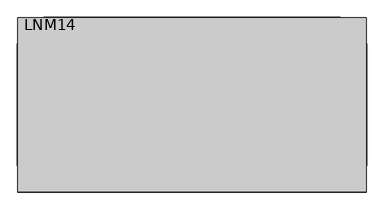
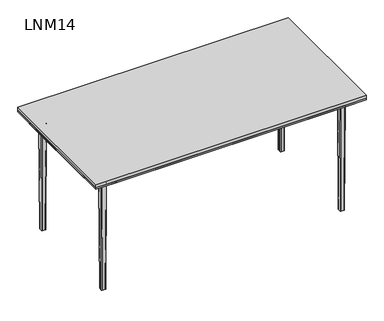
"""IFC4 building model written with IfcOpenShell, lengths in millimetres: furniture geometry, Contact Desks and Operative Twin Desks : LNM14."""

from ifc_helpers import new_model, si_unit, point, frame, origin, place, context, project, spatial, polyline, circle_curve, ellipse_curve, trimmed, outline, extrude, faceted_brep, source, transform, mapped, element, save
from ifc_brep_helpers import plane_surface, cylinder_surface, revolved_surface, extruded_surface, advanced_brep


def lnm14_2fae6fb0(model_context):
    return source(origin(), model_context, "Body", "SolidModel", [
        extrude(outline(polyline([(800.0, -280.0), (800.0, -400.0), (680.0, -400.0), (680.0, -280.0), (800.0, -280.0)])), frame((0.0, 0.0, 710.0), z_axis=(0.0, 0.0, 1.0), x_axis=(1.0, 0.0, 0.0)), (0.0, 0.0, 1.0), 10.0),
        extrude(outline(polyline([(800.0, 400.0), (800.0, 280.0), (680.0, 280.0), (680.0, 400.0), (800.0, 400.0)])), frame((0.0, 0.0, 710.0), z_axis=(0.0, 0.0, 1.0), x_axis=(1.0, 0.0, 0.0)), (0.0, 0.0, 1.0), 10.0),
        extrude(outline(polyline([(-680.0, 400.0), (-680.0, 280.0), (-800.0, 280.0), (-800.0, 400.0), (-680.0, 400.0)])), frame((0.0, 0.0, 710.0), z_axis=(0.0, 0.0, 1.0), x_axis=(1.0, 0.0, 0.0)), (0.0, 0.0, 1.0), 10.0),
        extrude(outline(polyline([(-800.0, 280.0), (-680.0, 280.0), (-680.0, -280.0), (-800.0, -280.0), (-800.0, 280.0)])), frame((0.0, 0.0, 710.0), z_axis=(0.0, 0.0, 1.0), x_axis=(1.0, 0.0, 0.0)), (0.0, 0.0, 1.0), 10.0),
        extrude(outline(polyline([(680.0, 280.0), (800.0, 280.0), (800.0, -280.0), (680.0, -280.0), (680.0, 280.0)])), frame((0.0, 0.0, 710.0), z_axis=(0.0, 0.0, 1.0), x_axis=(1.0, 0.0, 0.0)), (0.0, 0.0, 1.0), 10.0),
        extrude(outline(polyline([(680.0, -280.0), (680.0, -400.0), (-680.0, -400.0), (-680.0, -280.0), (680.0, -280.0)])), frame((0.0, 0.0, 710.0), z_axis=(0.0, 0.0, 1.0), x_axis=(1.0, 0.0, 0.0)), (0.0, 0.0, 1.0), 10.0),
        extrude(outline(polyline([(680.0, 400.0), (680.0, 280.0), (-680.0, 280.0), (-680.0, 400.0), (680.0, 400.0)])), frame((0.0, 0.0, 710.0), z_axis=(0.0, 0.0, 1.0), x_axis=(1.0, 0.0, 0.0)), (0.0, 0.0, 1.0), 10.0),
        extrude(outline(polyline([(710.0, 680.0), (675.0, 680.0), (675.0, 728.7129935), (710.0, 801.7129935), (710.0, 680.0)])), frame((0.0, -280.0, 0.0), z_axis=(0.0, 1.0, 0.0), x_axis=(0.0, 0.0, 1.0)), (0.0, 0.0, 1.0), 560.0),
        extrude(outline(polyline([(710.0, -680.0), (710.0, -801.7129935), (675.0, -728.7129935), (675.0, -680.0), (710.0, -680.0)])), frame((0.0, -280.0, 0.0), z_axis=(0.0, 1.0, 0.0), x_axis=(0.0, 0.0, 1.0)), (0.0, 0.0, 1.0), 560.0),
        extrude(outline(polyline([(280.0, 710.0), (401.7129935, 710.0), (328.7129935, 675.0), (280.0, 675.0), (280.0, 710.0)])), frame((-680.0, 0.0, 0.0), z_axis=(1.0, 0.0, 0.0), x_axis=(0.0, 1.0, 0.0)), (0.0, 0.0, 1.0), 1360.0),
        extrude(outline(polyline([(-280.0, 710.0), (-280.0, 675.0), (-328.7129935, 675.0), (-401.7129935, 710.0), (-280.0, 710.0)])), frame((-680.0, 0.0, 0.0), z_axis=(1.0, 0.0, 0.0), x_axis=(0.0, 1.0, 0.0)), (0.0, 0.0, 1.0), 1360.0),
        faceted_brep([(-680.0, 280.0, 710.0), (-680.0, 400.0, 710.0), (-800.0, 400.0, 710.0), (-800.0, 280.0, 710.0), (-680.0, 280.0, 675.0), (-727.0, 280.0, 675.0), (-727.0, 327.0, 675.0), (-680.0, 327.0, 675.0)], [[[0, 1, 2, 3]], [[4, 5, 6, 7]], [[1, 0, 4, 7]], [[0, 3, 5, 4]], [[6, 2, 1, 7]], [[2, 6, 5, 3]]]),
        advanced_brep(
        [(-687.0, 295.0, 675.0), (-687.0, 319.0, 675.0), (-695.0, 327.0, 675.0), (-719.0, 327.0, 675.0), (-727.0, 319.0, 675.0), (-727.0, 295.0, 675.0), (-719.0, 287.0, 675.0), (-695.0, 287.0, 675.0), (-719.0, 292.0, 665.0), (-722.0, 295.0, 665.0), (-722.0, 319.0, 665.0), (-719.0, 322.0, 665.0), (-695.0, 322.0, 665.0), (-692.0, 319.0, 665.0), (-692.0, 295.0, 665.0), (-695.0, 292.0, 665.0), (-687.0, 295.0, 672.0), (-687.0, 319.0, 672.0), (-695.0, 327.0, 672.0), (-719.0, 327.0, 672.0), (-727.0, 319.0, 672.0), (-727.0, 295.0, 672.0), (-719.0, 287.0, 672.0), (-695.0, 287.0, 672.0)],
        [
            (0, 1),
            (1, 2, circle_curve(frame((-695.0, 319.0, 675.0), z_axis=(0.0, 0.0, 1.0), x_axis=(0.0, -1.0000000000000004, 0.0)), 8.0)),
            (2, 3),
            (3, 4, circle_curve(frame((-719.0, 319.0, 675.0), z_axis=(0.0, 0.0, 1.0), x_axis=(0.0, -1.0000000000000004, 0.0)), 8.0)),
            (4, 5),
            (5, 6, circle_curve(frame((-719.0, 295.0, 675.0), z_axis=(0.0, 0.0, 1.0), x_axis=(0.0, -1.0000000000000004, 0.0)), 8.0)),
            (6, 7),
            (7, 0, circle_curve(frame((-695.0, 295.0, 675.0), z_axis=(0.0, 0.0, 1.0), x_axis=(0.0, -1.0000000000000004, 0.0)), 8.0)),
            (8, 9, circle_curve(frame((-719.0, 295.0, 665.0), z_axis=(0.0, 0.0, -1.0), x_axis=(0.0, -1.0000000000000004, 0.0)), 3.0)),
            (9, 10),
            (10, 11, circle_curve(frame((-719.0, 319.0, 665.0), z_axis=(0.0, 0.0, -1.0), x_axis=(-1.0000000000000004, 0.0, 0.0)), 3.0)),
            (11, 12),
            (12, 13, circle_curve(frame((-695.0, 319.0, 665.0), z_axis=(0.0, 0.0, -1.0), x_axis=(0.0, 1.0000000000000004, 0.0)), 3.0)),
            (13, 14),
            (14, 15, circle_curve(frame((-695.0, 295.0, 665.0), z_axis=(0.0, 0.0, -1.0), x_axis=(1.0000000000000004, 0.0, 0.0)), 3.0)),
            (15, 8),
            (0, 16),
            (16, 17),
            (17, 1),
            (17, 18, circle_curve(frame((-695.0, 319.0, 672.0), z_axis=(0.0, 0.0, 1.0), x_axis=(0.0, -1.0000000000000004, 0.0)), 8.0)),
            (18, 2),
            (18, 19),
            (19, 3),
            (19, 20, circle_curve(frame((-719.0, 319.0, 672.0), z_axis=(0.0, 0.0, 1.0), x_axis=(0.0, -1.0000000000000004, 0.0)), 8.0)),
            (20, 4),
            (20, 21),
            (21, 5),
            (21, 22, circle_curve(frame((-719.0, 295.0, 672.0), z_axis=(0.0, 0.0, 1.0), x_axis=(0.0, -1.0000000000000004, 0.0)), 8.0)),
            (22, 6),
            (22, 23),
            (23, 7),
            (23, 16, circle_curve(frame((-695.0, 295.0, 672.0), z_axis=(0.0, 0.0, 1.0), x_axis=(0.0, -1.0000000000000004, 0.0)), 8.0)),
            (21, 9, circle_curve(frame((-730.9600528, 295.0, 663.8856766), z_axis=(0.0, 1.0000000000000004, 0.0), x_axis=(-1.0000000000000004, 0.0, 0.0)), 9.0290787)),
            (8, 22, circle_curve(frame((-719.0, 283.0399472, 663.8856766), z_axis=(1.0000000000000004, 0.0, 0.0), x_axis=(0.0, -1.0000000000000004, 0.0)), 9.0290787)),
            (20, 10, circle_curve(frame((-730.9600528, 319.0, 663.8856766), z_axis=(0.0, 1.0, 0.0), x_axis=(-1.0000000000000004, 0.0, 0.0)), 9.0290787)),
            (19, 11, circle_curve(frame((-719.0, 330.9600528, 663.8856766), z_axis=(1.0000000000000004, 0.0, 0.0), x_axis=(0.0, 1.0000000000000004, 0.0)), 9.0290787)),
            (18, 12, circle_curve(frame((-695.0, 330.9600528, 663.8856766), z_axis=(1.0, 0.0, 0.0), x_axis=(0.0, 1.0000000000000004, 0.0)), 9.0290787)),
            (17, 13, circle_curve(frame((-683.0399472, 319.0, 663.8856766), z_axis=(0.0, -1.0000000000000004, 0.0), x_axis=(1.0000000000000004, 0.0, 0.0)), 9.0290787)),
            (16, 14, circle_curve(frame((-683.0399472, 295.0, 663.8856766), z_axis=(0.0, -1.0, 0.0), x_axis=(1.0000000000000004, 0.0, 0.0)), 9.0290787)),
            (23, 15, circle_curve(frame((-695.0, 283.0399472, 663.8856766), z_axis=(-1.0000000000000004, 0.0, 0.0), x_axis=(0.0, -1.0000000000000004, 0.0)), 9.0290787)),
        ],
        [
            plane_surface(frame((-687.0, 980.663284, 675.0), z_axis=(0.0, 0.0, 1.0), x_axis=(0.0, 1.0, 0.0))),
            plane_surface(frame((-687.0, 980.663284, 665.0), z_axis=(0.0, 0.0, -1.0), x_axis=(0.0, -1.0, 0.0))),
            plane_surface(frame((-687.0, 295.0, 675.0), z_axis=(1.0, 0.0, 0.0), x_axis=(0.0, 0.0, -1.0))),
            cylinder_surface(frame((-695.0, 319.0, 665.0), z_axis=(0.0, 0.0, 1.0), x_axis=(0.0, -1.0000000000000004, 0.0)), 8.0),
            plane_surface(frame((-695.0, 327.0, 675.0), z_axis=(0.0, 1.0, 0.0), x_axis=(0.0, 0.0, -1.0))),
            cylinder_surface(frame((-719.0, 319.0, 665.0), z_axis=(0.0, 0.0, 1.0), x_axis=(0.0, -1.0000000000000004, 0.0)), 8.0),
            plane_surface(frame((-727.0, 319.0, 675.0), z_axis=(-1.0, 0.0, 0.0), x_axis=(0.0, 0.0, -1.0))),
            cylinder_surface(frame((-719.0, 295.0, 665.0), z_axis=(0.0, 0.0, 1.0), x_axis=(0.0, -1.0000000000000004, 0.0)), 8.0),
            plane_surface(frame((-719.0, 287.0, 675.0), z_axis=(0.0, -1.0, 0.0), x_axis=(0.0, 0.0, -1.0))),
            cylinder_surface(frame((-695.0, 295.0, 665.0), z_axis=(0.0, 0.0, 1.0), x_axis=(0.0, -1.0000000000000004, 0.0)), 8.0),
            revolved_surface(trimmed(ellipse_curve(frame((-719.0, 283.0399472, 663.8856766), z_axis=(-1.0000000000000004, 0.0, 0.0), x_axis=(0.0, -1.0000000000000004, 0.0)), 9.0290787, 9.0290787), [point((-719.0, 287.0, 672.0))], [point((-719.0, 292.0, 665.0))], True, "CARTESIAN"), (-719.0, 295.0, 0.0), (0.0, 0.0, -1.0)),
            revolved_surface(polyline([(-739.9891315, 295.0, 663.8856766), (-739.9891315, 319.0, 663.8856766)]), (-730.9600528, 295.0, 663.8856766), (0.0, -1.0000000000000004, 0.0)),
            revolved_surface(trimmed(ellipse_curve(frame((-730.9600528, 319.0, 663.8856766), z_axis=(0.0, 1.0000000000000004, 0.0), x_axis=(-1.0000000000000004, 0.0, 0.0)), 9.0290787, 9.0290787), [point((-727.0, 319.0, 672.0))], [point((-722.0, 319.0, 665.0))], True, "CARTESIAN"), (-719.0, 319.0, 0.0), (0.0, 0.0, -1.0)),
            revolved_surface(polyline([(-719.0, 339.98913150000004, 663.8856766), (-695.0, 339.98913150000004, 663.8856766)]), (-719.0, 330.9600528, 663.8856766), (-1.0000000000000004, 0.0, 0.0)),
            revolved_surface(trimmed(ellipse_curve(frame((-695.0, 330.9600528, 663.8856766), z_axis=(1.0000000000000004, 0.0, 0.0), x_axis=(0.0, 1.0000000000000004, 0.0)), 9.0290787, 9.0290787), [point((-695.0, 327.0, 672.0))], [point((-695.0, 322.0, 665.0))], True, "CARTESIAN"), (-695.0, 319.0, 0.0), (0.0, 0.0, -1.0)),
            revolved_surface(polyline([(-674.0108685, 319.0, 663.8856766), (-674.0108685, 295.0, 663.8856766)]), (-683.0399472, 319.0, 663.8856766), (0.0, 1.0000000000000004, 0.0)),
            revolved_surface(trimmed(ellipse_curve(frame((-683.0399472, 295.0, 663.8856766), z_axis=(0.0, -1.0000000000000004, 0.0), x_axis=(1.0000000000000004, 0.0, 0.0)), 9.0290787, 9.0290787), [point((-687.0, 295.0, 672.0))], [point((-692.0, 295.0, 665.0))], True, "CARTESIAN"), (-695.0, 295.0, 0.0), (0.0, 0.0, -1.0)),
            revolved_surface(polyline([(-695.0, 274.01086849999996, 663.8856766), (-719.0, 274.01086849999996, 663.8856766)]), (-695.0, 283.0399472, 663.8856766), (1.0000000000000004, 0.0, 0.0)),
        ],
        [
            (0, [[1, 2, 3, 4, 5, 6, 7, 8]]),
            (1, [[9, 10, 11, 12, 13, 14, 15, 16]]),
            (2, [[-1, 17, 18, 19]]),
            (3, [[-2, -19, 20, 21]]),
            (4, [[-3, -21, 22, 23]]),
            (5, [[-4, -23, 24, 25]]),
            (6, [[-5, -25, 26, 27]]),
            (7, [[-6, -27, 28, 29]]),
            (8, [[-7, -29, 30, 31]]),
            (9, [[-8, -31, 32, -17]]),
            (10, [[33, -9, 34, -28]]),
            (11, [[-33, -26, 35, -10]]),
            (12, [[-35, -24, 36, -11]]),
            (13, [[-36, -22, 37, -12]]),
            (14, [[-37, -20, 38, -13]]),
            (15, [[-38, -18, 39, -14]]),
            (16, [[-39, -32, 40, -15]]),
            (17, [[-34, -16, -40, -30]]),
        ],
    ),
        advanced_brep(
        [(-719.0, 322.0, 665.0), (-722.0, 319.0, 665.0), (-722.0, 295.0, 665.0), (-719.0, 292.0, 665.0), (-695.0, 292.0, 665.0), (-692.0, 295.0, 665.0), (-692.0, 319.0, 665.0), (-695.0, 322.0, 665.0), (-716.0, 319.0, 0.0), (-698.0, 319.0, 0.0), (-695.0, 316.0, 0.0), (-695.0, 298.0, 0.0), (-698.0, 295.0, 0.0), (-716.0, 295.0, 0.0), (-719.0, 298.0, 0.0), (-719.0, 316.0, 0.0)],
        [
            (0, 1, circle_curve(frame((-719.0, 319.0, 665.0), z_axis=(0.0, 0.0, 1.0), x_axis=(0.0, -1.0, 0.0)), 3.0)),
            (1, 2),
            (2, 3, circle_curve(frame((-719.0, 295.0, 665.0), z_axis=(0.0, 0.0, 1.0), x_axis=(0.0, -1.0, 0.0)), 3.0)),
            (3, 4),
            (4, 5, circle_curve(frame((-695.0, 295.0, 665.0), z_axis=(0.0, 0.0, 1.0), x_axis=(0.0, -1.0, 0.0)), 3.0)),
            (5, 6),
            (6, 7, circle_curve(frame((-695.0, 319.0, 665.0), z_axis=(0.0, 0.0, 1.0), x_axis=(0.0, -1.0, 0.0)), 3.0)),
            (7, 0),
            (8, 9),
            (9, 10, circle_curve(frame((-698.0, 316.0, 0.0), z_axis=(0.0, 0.0, -1.0), x_axis=(0.0, -1.0, 0.0)), 3.0)),
            (10, 11),
            (11, 12, circle_curve(frame((-698.0, 298.0, 0.0), z_axis=(0.0, 0.0, -1.0), x_axis=(0.0, -1.0, 0.0)), 3.0)),
            (12, 13),
            (13, 14, circle_curve(frame((-716.0, 298.0, 0.0), z_axis=(0.0, 0.0, -1.0), x_axis=(0.0, -1.0, 0.0)), 3.0)),
            (14, 15),
            (15, 8, circle_curve(frame((-716.0, 316.0, 0.0), z_axis=(0.0, 0.0, -1.0), x_axis=(0.0, -1.0, 0.0)), 3.0)),
            (15, 1),
            (0, 8),
            (14, 2),
            (13, 3),
            (12, 4),
            (11, 5),
            (10, 6),
            (9, 7),
        ],
        [
            plane_surface(frame((-707.0, 307.0, 665.0), z_axis=(0.0, 0.0, 1.0), x_axis=(0.0, 1.0, 0.0))),
            plane_surface(frame((-707.0, 307.0, 0.0), z_axis=(0.0, 0.0, -1.0), x_axis=(0.0, 1.0, 0.0))),
            extruded_surface(trimmed(circle_curve(frame((-716.0, 316.0, 0.0), z_axis=(0.0, 0.0, 1.0), x_axis=(0.0, -1.0, 0.0)), 3.0), [point((-716.0, 319.0, 0.0))], [point((-719.0, 316.0, 0.0))], True, "CARTESIAN"), (-3.0, 3.0, 665.0), 665.0135336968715),
            plane_surface(frame((-719.0, 307.0, 0.0), z_axis=(-0.9999898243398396, 0.0, -0.004511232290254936), x_axis=(0.0, -1.0, 0.0))),
            extruded_surface(trimmed(circle_curve(frame((-716.0, 298.0, 0.0), z_axis=(0.0, 0.0, 1.0), x_axis=(0.0, -1.0, 0.0)), 3.0), [point((-719.0, 298.0, 0.0))], [point((-716.0, 295.0, 0.0))], True, "CARTESIAN"), (-3.0, -3.0, 665.0), 665.0135336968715),
            plane_surface(frame((-707.0, 295.0, 0.0), z_axis=(0.0, -0.9999898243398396, -0.004511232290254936), x_axis=(1.0, 0.0, 0.0))),
            extruded_surface(trimmed(circle_curve(frame((-698.0, 298.0, 0.0), z_axis=(0.0, 0.0, 1.0), x_axis=(0.0, -1.0, 0.0)), 3.0), [point((-698.0, 295.0, 0.0))], [point((-695.0, 298.0, 0.0))], True, "CARTESIAN"), (3.0, -3.0, 665.0), 665.0135336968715),
            plane_surface(frame((-695.0, 307.0, 0.0), z_axis=(0.9999898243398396, 0.0, -0.004511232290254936), x_axis=(0.0, 1.0, 0.0))),
            extruded_surface(trimmed(circle_curve(frame((-698.0, 316.0, 0.0), z_axis=(0.0, 0.0, 1.0), x_axis=(0.0, -1.0, 0.0)), 3.0), [point((-695.0, 316.0, 0.0))], [point((-698.0, 319.0, 0.0))], True, "CARTESIAN"), (3.0, 3.0, 665.0), 665.0135336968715),
            plane_surface(frame((-707.0, 319.0, 0.0), z_axis=(0.0, 0.9999898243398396, -0.004511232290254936), x_axis=(-1.0, 0.0, 0.0))),
        ],
        [
            (0, [[1, 2, 3, 4, 5, 6, 7, 8]]),
            (1, [[9, 10, 11, 12, 13, 14, 15, 16]]),
            (2, [[-16, 17, -1, 18]]),
            (3, [[-15, 19, -2, -17]]),
            (4, [[-14, 20, -3, -19]]),
            (5, [[-13, 21, -4, -20]]),
            (6, [[-12, 22, -5, -21]]),
            (7, [[-11, 23, -6, -22]]),
            (8, [[-10, 24, -7, -23]]),
            (9, [[-9, -18, -8, -24]]),
        ],
    ),
        faceted_brep([(680.0, -280.0, 710.0), (680.0, -400.0, 710.0), (800.0, -400.0, 710.0), (800.0, -280.0, 710.0), (680.0, -280.0, 675.0), (727.0, -280.0, 675.0), (727.0, -327.0, 675.0), (680.0, -327.0, 675.0)], [[[0, 1, 2, 3]], [[4, 5, 6, 7]], [[1, 0, 4, 7]], [[0, 3, 5, 4]], [[6, 2, 1, 7]], [[2, 6, 5, 3]]]),
        advanced_brep(
        [(687.0, -295.0, 675.0), (687.0, -319.0, 675.0), (695.0, -327.0, 675.0), (719.0, -327.0, 675.0), (727.0, -319.0, 675.0), (727.0, -295.0, 675.0), (719.0, -287.0, 675.0), (695.0, -287.0, 675.0), (719.0, -292.0, 665.0), (722.0, -295.0, 665.0), (722.0, -319.0, 665.0), (719.0, -322.0, 665.0), (695.0, -322.0, 665.0), (692.0, -319.0, 665.0), (692.0, -295.0, 665.0), (695.0, -292.0, 665.0), (687.0, -295.0, 672.0), (687.0, -319.0, 672.0), (695.0, -327.0, 672.0), (719.0, -327.0, 672.0), (727.0, -319.0, 672.0), (727.0, -295.0, 672.0), (719.0, -287.0, 672.0), (695.0, -287.0, 672.0)],
        [
            (0, 1),
            (1, 2, circle_curve(frame((695.0, -319.0, 675.0), z_axis=(0.0, 0.0, 1.0), x_axis=(0.0, 1.0000000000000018, 0.0)), 8.0)),
            (2, 3),
            (3, 4, circle_curve(frame((719.0, -319.0, 675.0), z_axis=(0.0, 0.0, 1.0), x_axis=(0.0, 1.0000000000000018, 0.0)), 8.0)),
            (4, 5),
            (5, 6, circle_curve(frame((719.0, -295.0, 675.0), z_axis=(0.0, 0.0, 1.0), x_axis=(0.0, 1.0000000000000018, 0.0)), 8.0)),
            (6, 7),
            (7, 0, circle_curve(frame((695.0, -295.0, 675.0), z_axis=(0.0, 0.0, 1.0), x_axis=(0.0, 1.0000000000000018, 0.0)), 8.0)),
            (8, 9, circle_curve(frame((719.0, -295.0, 665.0), z_axis=(0.0, 0.0, -1.0), x_axis=(0.0, 1.0000000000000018, 0.0)), 3.0)),
            (9, 10),
            (10, 11, circle_curve(frame((719.0, -319.0, 665.0), z_axis=(0.0, 0.0, -1.0), x_axis=(1.0000000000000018, 0.0, 0.0)), 3.0)),
            (11, 12),
            (12, 13, circle_curve(frame((695.0, -319.0, 665.0), z_axis=(0.0, 0.0, -1.0), x_axis=(0.0, -1.0000000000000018, 0.0)), 3.0)),
            (13, 14),
            (14, 15, circle_curve(frame((695.0, -295.0, 665.0), z_axis=(0.0, 0.0, -1.0), x_axis=(-1.0000000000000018, 0.0, 0.0)), 3.0)),
            (15, 8),
            (0, 16),
            (16, 17),
            (17, 1),
            (17, 18, circle_curve(frame((695.0, -319.0, 672.0), z_axis=(0.0, 0.0, 1.0), x_axis=(0.0, 1.0000000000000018, 0.0)), 8.0)),
            (18, 2),
            (18, 19),
            (19, 3),
            (19, 20, circle_curve(frame((719.0, -319.0, 672.0), z_axis=(0.0, 0.0, 1.0), x_axis=(0.0, 1.0000000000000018, 0.0)), 8.0)),
            (20, 4),
            (20, 21),
            (21, 5),
            (21, 22, circle_curve(frame((719.0, -295.0, 672.0), z_axis=(0.0, 0.0, 1.0), x_axis=(0.0, 1.0000000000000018, 0.0)), 8.0)),
            (22, 6),
            (22, 23),
            (23, 7),
            (23, 16, circle_curve(frame((695.0, -295.0, 672.0), z_axis=(0.0, 0.0, 1.0), x_axis=(0.0, 1.0000000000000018, 0.0)), 8.0)),
            (21, 9, circle_curve(frame((730.9600528, -295.0, 663.8856766), z_axis=(0.0, -1.0000000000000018, 0.0), x_axis=(1.0000000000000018, 0.0, 0.0)), 9.0290787)),
            (8, 22, circle_curve(frame((719.0, -283.0399472, 663.8856766), z_axis=(-1.0000000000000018, 0.0, 0.0), x_axis=(0.0, 1.0000000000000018, 0.0)), 9.0290787)),
            (20, 10, circle_curve(frame((730.9600528, -319.0, 663.8856766), z_axis=(0.0, -1.0, 0.0), x_axis=(1.0000000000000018, 0.0, 0.0)), 9.0290787)),
            (19, 11, circle_curve(frame((719.0, -330.9600528, 663.8856766), z_axis=(-1.0000000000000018, 0.0, 0.0), x_axis=(0.0, -1.0000000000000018, 0.0)), 9.0290787)),
            (18, 12, circle_curve(frame((695.0, -330.9600528, 663.8856766), z_axis=(-1.0, 0.0, 0.0), x_axis=(0.0, -1.0000000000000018, 0.0)), 9.0290787)),
            (17, 13, circle_curve(frame((683.0399472, -319.0, 663.8856766), z_axis=(0.0, 1.0000000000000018, 0.0), x_axis=(-1.0000000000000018, 0.0, 0.0)), 9.0290787)),
            (16, 14, circle_curve(frame((683.0399472, -295.0, 663.8856766), z_axis=(0.0, 1.0, 0.0), x_axis=(-1.0000000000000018, 0.0, 0.0)), 9.0290787)),
            (23, 15, circle_curve(frame((695.0, -283.0399472, 663.8856766), z_axis=(1.0000000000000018, 0.0, 0.0), x_axis=(0.0, 1.0000000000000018, 0.0)), 9.0290787)),
        ],
        [
            plane_surface(frame((687.0, -980.663284, 675.0), z_axis=(0.0, 0.0, 1.0), x_axis=(0.0, -1.0, 0.0))),
            plane_surface(frame((687.0, -980.663284, 665.0), z_axis=(0.0, 0.0, -1.0), x_axis=(0.0, 1.0, 0.0))),
            plane_surface(frame((687.0, -295.0, 675.0), z_axis=(-1.0, 0.0, 0.0), x_axis=(0.0, 0.0, -1.0))),
            cylinder_surface(frame((695.0, -319.0, 665.0), z_axis=(0.0, 0.0, 1.0), x_axis=(0.0, 1.0000000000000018, 0.0)), 8.0),
            plane_surface(frame((695.0, -327.0, 675.0), z_axis=(0.0, -1.0, 0.0), x_axis=(0.0, 0.0, -1.0))),
            cylinder_surface(frame((719.0, -319.0, 665.0), z_axis=(0.0, 0.0, 1.0), x_axis=(0.0, 1.0000000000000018, 0.0)), 8.0),
            plane_surface(frame((727.0, -319.0, 675.0), z_axis=(1.0, 0.0, 0.0), x_axis=(0.0, 0.0, -1.0))),
            cylinder_surface(frame((719.0, -295.0, 665.0), z_axis=(0.0, 0.0, 1.0), x_axis=(0.0, 1.0000000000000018, 0.0)), 8.0),
            plane_surface(frame((719.0, -287.0, 675.0), z_axis=(0.0, 1.0, 0.0), x_axis=(0.0, 0.0, -1.0))),
            cylinder_surface(frame((695.0, -295.0, 665.0), z_axis=(0.0, 0.0, 1.0), x_axis=(0.0, 1.0000000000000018, 0.0)), 8.0),
            revolved_surface(trimmed(ellipse_curve(frame((719.0, -283.0399472, 663.8856766), z_axis=(1.0000000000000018, 0.0, 0.0), x_axis=(0.0, 1.0000000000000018, 0.0)), 9.0290787, 9.0290787), [point((719.0, -287.0, 672.0))], [point((719.0, -292.0, 665.0))], True, "CARTESIAN"), (719.0, -295.0, 0.0), (0.0, 0.0, -1.0)),
            revolved_surface(polyline([(739.9891315, -295.0, 663.8856766), (739.9891315, -319.0000000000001, 663.8856766)]), (730.9600528, -295.0, 663.8856766), (0.0, 1.0000000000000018, 0.0)),
            revolved_surface(trimmed(ellipse_curve(frame((730.9600528, -319.0, 663.8856766), z_axis=(0.0, -1.0000000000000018, 0.0), x_axis=(1.0000000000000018, 0.0, 0.0)), 9.0290787, 9.0290787), [point((727.0, -319.0, 672.0))], [point((722.0, -319.0, 665.0))], True, "CARTESIAN"), (719.0, -319.0, 0.0), (0.0, 0.0, -1.0)),
            revolved_surface(polyline([(719.0, -339.98913150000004, 663.8856766), (694.9999999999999, -339.98913150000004, 663.8856766)]), (719.0, -330.9600528, 663.8856766), (1.0000000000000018, 0.0, 0.0)),
            revolved_surface(trimmed(ellipse_curve(frame((695.0, -330.9600528, 663.8856766), z_axis=(-1.0000000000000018, 0.0, 0.0), x_axis=(0.0, -1.0000000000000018, 0.0)), 9.0290787, 9.0290787), [point((695.0, -327.0, 672.0))], [point((695.0, -322.0, 665.0))], True, "CARTESIAN"), (695.0, -319.0, 0.0), (0.0, 0.0, -1.0)),
            revolved_surface(polyline([(674.0108685, -319.0, 663.8856766), (674.0108685, -294.9999999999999, 663.8856766)]), (683.0399472, -319.0, 663.8856766), (0.0, -1.0000000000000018, 0.0)),
            revolved_surface(trimmed(ellipse_curve(frame((683.0399472, -295.0, 663.8856766), z_axis=(0.0, 1.0000000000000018, 0.0), x_axis=(-1.0000000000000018, 0.0, 0.0)), 9.0290787, 9.0290787), [point((687.0, -295.0, 672.0))], [point((692.0, -295.0, 665.0))], True, "CARTESIAN"), (695.0, -295.0, 0.0), (0.0, 0.0, -1.0)),
            revolved_surface(polyline([(695.0, -274.01086849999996, 663.8856766), (719.0000000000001, -274.01086849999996, 663.8856766)]), (695.0, -283.0399472, 663.8856766), (-1.0000000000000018, 0.0, 0.0)),
        ],
        [
            (0, [[1, 2, 3, 4, 5, 6, 7, 8]]),
            (1, [[9, 10, 11, 12, 13, 14, 15, 16]]),
            (2, [[-1, 17, 18, 19]]),
            (3, [[-2, -19, 20, 21]]),
            (4, [[-3, -21, 22, 23]]),
            (5, [[-4, -23, 24, 25]]),
            (6, [[-5, -25, 26, 27]]),
            (7, [[-6, -27, 28, 29]]),
            (8, [[-7, -29, 30, 31]]),
            (9, [[-8, -31, 32, -17]]),
            (10, [[33, -9, 34, -28]]),
            (11, [[-33, -26, 35, -10]]),
            (12, [[-35, -24, 36, -11]]),
            (13, [[-36, -22, 37, -12]]),
            (14, [[-37, -20, 38, -13]]),
            (15, [[-38, -18, 39, -14]]),
            (16, [[-39, -32, 40, -15]]),
            (17, [[-34, -16, -40, -30]]),
        ],
    ),
        advanced_brep(
        [(719.0, -322.0, 665.0), (722.0, -319.0, 665.0), (722.0, -295.0, 665.0), (719.0, -292.0, 665.0), (695.0, -292.0, 665.0), (692.0, -295.0, 665.0), (692.0, -319.0, 665.0), (695.0, -322.0, 665.0), (716.0, -319.0, 0.0), (698.0, -319.0, 0.0), (695.0, -316.0, 0.0), (695.0, -298.0, 0.0), (698.0, -295.0, 0.0), (716.0, -295.0, 0.0), (719.0, -298.0, 0.0), (719.0, -316.0, 0.0)],
        [
            (0, 1, circle_curve(frame((719.0, -319.0, 665.0), z_axis=(0.0, 0.0, 1.0), x_axis=(0.0, 1.0, 0.0)), 3.0)),
            (1, 2),
            (2, 3, circle_curve(frame((719.0, -295.0, 665.0), z_axis=(0.0, 0.0, 1.0), x_axis=(0.0, 1.0, 0.0)), 3.0)),
            (3, 4),
            (4, 5, circle_curve(frame((695.0, -295.0, 665.0), z_axis=(0.0, 0.0, 1.0), x_axis=(0.0, 1.0, 0.0)), 3.0)),
            (5, 6),
            (6, 7, circle_curve(frame((695.0, -319.0, 665.0), z_axis=(0.0, 0.0, 1.0), x_axis=(0.0, 1.0, 0.0)), 3.0)),
            (7, 0),
            (8, 9),
            (9, 10, circle_curve(frame((698.0, -316.0, 0.0), z_axis=(0.0, 0.0, -1.0), x_axis=(0.0, 1.0, 0.0)), 3.0)),
            (10, 11),
            (11, 12, circle_curve(frame((698.0, -298.0, 0.0), z_axis=(0.0, 0.0, -1.0), x_axis=(0.0, 1.0, 0.0)), 3.0)),
            (12, 13),
            (13, 14, circle_curve(frame((716.0, -298.0, 0.0), z_axis=(0.0, 0.0, -1.0), x_axis=(0.0, 1.0, 0.0)), 3.0)),
            (14, 15),
            (15, 8, circle_curve(frame((716.0, -316.0, 0.0), z_axis=(0.0, 0.0, -1.0), x_axis=(0.0, 1.0, 0.0)), 3.0)),
            (15, 1),
            (0, 8),
            (14, 2),
            (13, 3),
            (12, 4),
            (11, 5),
            (10, 6),
            (9, 7),
        ],
        [
            plane_surface(frame((707.0, -307.0, 665.0), z_axis=(0.0, 0.0, 1.0), x_axis=(0.0, -1.0, 0.0))),
            plane_surface(frame((707.0, -307.0, 0.0), z_axis=(0.0, 0.0, -1.0), x_axis=(0.0, -1.0, 0.0))),
            extruded_surface(trimmed(circle_curve(frame((716.0, -316.0, 0.0), z_axis=(0.0, 0.0, 1.0), x_axis=(0.0, 1.0, 0.0)), 3.0), [point((716.0, -319.0, 0.0))], [point((719.0, -316.0, 0.0))], True, "CARTESIAN"), (3.0, -3.0, 665.0), 665.0135336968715),
            plane_surface(frame((719.0, -307.0, 0.0), z_axis=(0.9999898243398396, 0.0, -0.004511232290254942), x_axis=(0.0, 1.0, 0.0))),
            extruded_surface(trimmed(circle_curve(frame((716.0, -298.0, 0.0), z_axis=(0.0, 0.0, 1.0), x_axis=(0.0, 1.0, 0.0)), 3.0), [point((719.0, -298.0, 0.0))], [point((716.0, -295.0, 0.0))], True, "CARTESIAN"), (3.0, 3.0, 665.0), 665.0135336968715),
            plane_surface(frame((707.0, -295.0, 0.0), z_axis=(0.0, 0.9999898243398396, -0.004511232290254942), x_axis=(-1.0, 0.0, 0.0))),
            extruded_surface(trimmed(circle_curve(frame((698.0, -298.0, 0.0), z_axis=(0.0, 0.0, 1.0), x_axis=(0.0, 1.0, 0.0)), 3.0), [point((698.0, -295.0, 0.0))], [point((695.0, -298.0, 0.0))], True, "CARTESIAN"), (-3.0, 3.0, 665.0), 665.0135336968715),
            plane_surface(frame((695.0, -307.0, 0.0), z_axis=(-0.9999898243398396, 0.0, -0.004511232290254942), x_axis=(0.0, -1.0, 0.0))),
            extruded_surface(trimmed(circle_curve(frame((698.0, -316.0, 0.0), z_axis=(0.0, 0.0, 1.0), x_axis=(0.0, 1.0, 0.0)), 3.0), [point((695.0, -316.0, 0.0))], [point((698.0, -319.0, 0.0))], True, "CARTESIAN"), (-3.0, -3.0, 665.0), 665.0135336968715),
            plane_surface(frame((707.0, -319.0, 0.0), z_axis=(0.0, -0.9999898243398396, -0.004511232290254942), x_axis=(1.0, 0.0, 0.0))),
        ],
        [
            (0, [[1, 2, 3, 4, 5, 6, 7, 8]]),
            (1, [[9, 10, 11, 12, 13, 14, 15, 16]]),
            (2, [[-16, 17, -1, 18]]),
            (3, [[-15, 19, -2, -17]]),
            (4, [[-14, 20, -3, -19]]),
            (5, [[-13, 21, -4, -20]]),
            (6, [[-12, 22, -5, -21]]),
            (7, [[-11, 23, -6, -22]]),
            (8, [[-10, 24, -7, -23]]),
            (9, [[-9, -18, -8, -24]]),
        ],
    ),
        faceted_brep([(680.0, 280.0, 710.0), (800.0, 280.0, 710.0), (800.0, 400.0, 710.0), (680.0, 400.0, 710.0), (680.0, 280.0, 675.0), (680.0, 327.0, 675.0), (727.0, 327.0, 675.0), (727.0, 280.0, 675.0)], [[[0, 1, 2, 3]], [[4, 5, 6, 7]], [[1, 0, 4, 7]], [[0, 3, 5, 4]], [[6, 2, 1, 7]], [[2, 6, 5, 3]]]),
        advanced_brep(
        [(695.0, 287.0, 675.0), (719.0, 287.0, 675.0), (727.0, 295.0, 675.0), (727.0, 319.0, 675.0), (719.0, 327.0, 675.0), (695.0, 327.0, 675.0), (687.0, 319.0, 675.0), (687.0, 295.0, 675.0), (692.0, 319.0, 665.0), (695.0, 322.0, 665.0), (719.0, 322.0, 665.0), (722.0, 319.0, 665.0), (722.0, 295.0, 665.0), (719.0, 292.0, 665.0), (695.0, 292.0, 665.0), (692.0, 295.0, 665.0), (695.0, 287.0, 672.0), (719.0, 287.0, 672.0), (727.0, 295.0, 672.0), (727.0, 319.0, 672.0), (719.0, 327.0, 672.0), (695.0, 327.0, 672.0), (687.0, 319.0, 672.0), (687.0, 295.0, 672.0)],
        [
            (0, 1),
            (1, 2, circle_curve(frame((719.0, 295.0, 675.0), z_axis=(0.0, 0.0, 1.0), x_axis=(-1.0000000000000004, 0.0, 0.0)), 8.0)),
            (2, 3),
            (3, 4, circle_curve(frame((719.0, 319.0, 675.0), z_axis=(0.0, 0.0, 1.0), x_axis=(-1.0000000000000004, 0.0, 0.0)), 8.0)),
            (4, 5),
            (5, 6, circle_curve(frame((695.0, 319.0, 675.0), z_axis=(0.0, 0.0, 1.0), x_axis=(-1.0000000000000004, 0.0, 0.0)), 8.0)),
            (6, 7),
            (7, 0, circle_curve(frame((695.0, 295.0, 675.0), z_axis=(0.0, 0.0, 1.0), x_axis=(-1.0000000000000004, 0.0, 0.0)), 8.0)),
            (8, 9, circle_curve(frame((695.0, 319.0, 665.0), z_axis=(0.0, 0.0, -1.0), x_axis=(-1.0000000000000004, 0.0, 0.0)), 3.0)),
            (9, 10),
            (10, 11, circle_curve(frame((719.0, 319.0, 665.0), z_axis=(0.0, 0.0, -1.0), x_axis=(0.0, 1.0000000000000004, 0.0)), 3.0)),
            (11, 12),
            (12, 13, circle_curve(frame((719.0, 295.0, 665.0), z_axis=(0.0, 0.0, -1.0), x_axis=(1.0000000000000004, 0.0, 0.0)), 3.0)),
            (13, 14),
            (14, 15, circle_curve(frame((695.0, 295.0, 665.0), z_axis=(0.0, 0.0, -1.0), x_axis=(0.0, -1.0000000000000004, 0.0)), 3.0)),
            (15, 8),
            (0, 16),
            (16, 17),
            (17, 1),
            (17, 18, circle_curve(frame((719.0, 295.0, 672.0), z_axis=(0.0, 0.0, 1.0), x_axis=(-1.0000000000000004, 0.0, 0.0)), 8.0)),
            (18, 2),
            (18, 19),
            (19, 3),
            (19, 20, circle_curve(frame((719.0, 319.0, 672.0), z_axis=(0.0, 0.0, 1.0), x_axis=(-1.0000000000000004, 0.0, 0.0)), 8.0)),
            (20, 4),
            (20, 21),
            (21, 5),
            (21, 22, circle_curve(frame((695.0, 319.0, 672.0), z_axis=(0.0, 0.0, 1.0), x_axis=(-1.0000000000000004, 0.0, 0.0)), 8.0)),
            (22, 6),
            (22, 23),
            (23, 7),
            (23, 16, circle_curve(frame((695.0, 295.0, 672.0), z_axis=(0.0, 0.0, 1.0), x_axis=(-1.0000000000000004, 0.0, 0.0)), 8.0)),
            (21, 9, circle_curve(frame((695.0, 330.9600528, 663.8856766), z_axis=(1.0000000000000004, 0.0, 0.0), x_axis=(0.0, 1.0000000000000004, 0.0)), 9.0290787)),
            (8, 22, circle_curve(frame((683.0399472, 319.0, 663.8856766), z_axis=(0.0, -1.0000000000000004, 0.0), x_axis=(-1.0000000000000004, 0.0, 0.0)), 9.0290787)),
            (20, 10, circle_curve(frame((719.0, 330.9600528, 663.8856766), z_axis=(1.0, 0.0, 0.0), x_axis=(0.0, 1.0000000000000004, 0.0)), 9.0290787)),
            (19, 11, circle_curve(frame((730.9600528, 319.0, 663.8856766), z_axis=(0.0, -1.0000000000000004, 0.0), x_axis=(1.0000000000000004, 0.0, 0.0)), 9.0290787)),
            (18, 12, circle_curve(frame((730.9600528, 295.0, 663.8856766), z_axis=(0.0, -1.0, 0.0), x_axis=(1.0000000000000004, 0.0, 0.0)), 9.0290787)),
            (17, 13, circle_curve(frame((719.0, 283.0399472, 663.8856766), z_axis=(-1.0000000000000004, 0.0, 0.0), x_axis=(0.0, -1.0000000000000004, 0.0)), 9.0290787)),
            (16, 14, circle_curve(frame((695.0, 283.0399472, 663.8856766), z_axis=(-1.0, 0.0, 0.0), x_axis=(0.0, -1.0000000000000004, 0.0)), 9.0290787)),
            (23, 15, circle_curve(frame((683.0399472, 295.0, 663.8856766), z_axis=(0.0, 1.0000000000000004, 0.0), x_axis=(-1.0000000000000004, 0.0, 0.0)), 9.0290787)),
        ],
        [
            plane_surface(frame((1380.663284, 287.0, 675.0), z_axis=(0.0, 0.0, 1.0), x_axis=(1.0, 0.0, 0.0))),
            plane_surface(frame((1380.663284, 287.0, 665.0), z_axis=(0.0, 0.0, -1.0), x_axis=(-1.0, 0.0, 0.0))),
            plane_surface(frame((695.0, 287.0, 675.0), z_axis=(0.0, -1.0, 0.0), x_axis=(0.0, 0.0, -1.0))),
            cylinder_surface(frame((719.0, 295.0, 665.0), z_axis=(0.0, 0.0, 1.0), x_axis=(-1.0000000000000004, 0.0, 0.0)), 8.0),
            plane_surface(frame((727.0, 295.0, 675.0), z_axis=(1.0, 0.0, 0.0), x_axis=(0.0, 0.0, -1.0))),
            cylinder_surface(frame((719.0, 319.0, 665.0), z_axis=(0.0, 0.0, 1.0), x_axis=(-1.0000000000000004, 0.0, 0.0)), 8.0),
            plane_surface(frame((719.0, 327.0, 675.0), z_axis=(0.0, 1.0, 0.0), x_axis=(0.0, 0.0, -1.0))),
            cylinder_surface(frame((695.0, 319.0, 665.0), z_axis=(0.0, 0.0, 1.0), x_axis=(-1.0000000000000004, 0.0, 0.0)), 8.0),
            plane_surface(frame((687.0, 319.0, 675.0), z_axis=(-1.0, 0.0, 0.0), x_axis=(0.0, 0.0, -1.0))),
            cylinder_surface(frame((695.0, 295.0, 665.0), z_axis=(0.0, 0.0, 1.0), x_axis=(-1.0000000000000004, 0.0, 0.0)), 8.0),
            revolved_surface(trimmed(ellipse_curve(frame((683.0399472, 319.0, 663.8856766), z_axis=(0.0, 1.0000000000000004, 0.0), x_axis=(-1.0000000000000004, 0.0, 0.0)), 9.0290787, 9.0290787), [point((687.0, 319.0, 672.0))], [point((692.0, 319.0, 665.0))], True, "CARTESIAN"), (695.0, 319.0, 0.0), (0.0, 0.0, -1.0)),
            revolved_surface(polyline([(695.0, 339.98913150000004, 663.8856766), (719.0, 339.98913150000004, 663.8856766)]), (695.0, 330.9600528, 663.8856766), (-1.0000000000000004, 0.0, 0.0)),
            revolved_surface(trimmed(ellipse_curve(frame((719.0, 330.9600528, 663.8856766), z_axis=(1.0000000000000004, 0.0, 0.0), x_axis=(0.0, 1.0000000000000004, 0.0)), 9.0290787, 9.0290787), [point((719.0, 327.0, 672.0))], [point((719.0, 322.0, 665.0))], True, "CARTESIAN"), (719.0, 319.0, 0.0), (0.0, 0.0, -1.0)),
            revolved_surface(polyline([(739.9891315, 319.0, 663.8856766), (739.9891315, 295.0, 663.8856766)]), (730.9600528, 319.0, 663.8856766), (0.0, 1.0000000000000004, 0.0)),
            revolved_surface(trimmed(ellipse_curve(frame((730.9600528, 295.0, 663.8856766), z_axis=(0.0, -1.0000000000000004, 0.0), x_axis=(1.0000000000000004, 0.0, 0.0)), 9.0290787, 9.0290787), [point((727.0, 295.0, 672.0))], [point((722.0, 295.0, 665.0))], True, "CARTESIAN"), (719.0, 295.0, 0.0), (0.0, 0.0, -1.0)),
            revolved_surface(polyline([(719.0, 274.01086849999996, 663.8856766), (695.0, 274.01086849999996, 663.8856766)]), (719.0, 283.0399472, 663.8856766), (1.0000000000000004, 0.0, 0.0)),
            revolved_surface(trimmed(ellipse_curve(frame((695.0, 283.0399472, 663.8856766), z_axis=(-1.0000000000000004, 0.0, 0.0), x_axis=(0.0, -1.0000000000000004, 0.0)), 9.0290787, 9.0290787), [point((695.0, 287.0, 672.0))], [point((695.0, 292.0, 665.0))], True, "CARTESIAN"), (695.0, 295.0, 0.0), (0.0, 0.0, -1.0)),
            revolved_surface(polyline([(674.0108685, 295.0, 663.8856766), (674.0108685, 319.0, 663.8856766)]), (683.0399472, 295.0, 663.8856766), (0.0, -1.0000000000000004, 0.0)),
        ],
        [
            (0, [[1, 2, 3, 4, 5, 6, 7, 8]]),
            (1, [[9, 10, 11, 12, 13, 14, 15, 16]]),
            (2, [[-1, 17, 18, 19]]),
            (3, [[-2, -19, 20, 21]]),
            (4, [[-3, -21, 22, 23]]),
            (5, [[-4, -23, 24, 25]]),
            (6, [[-5, -25, 26, 27]]),
            (7, [[-6, -27, 28, 29]]),
            (8, [[-7, -29, 30, 31]]),
            (9, [[-8, -31, 32, -17]]),
            (10, [[33, -9, 34, -28]]),
            (11, [[-33, -26, 35, -10]]),
            (12, [[-35, -24, 36, -11]]),
            (13, [[-36, -22, 37, -12]]),
            (14, [[-37, -20, 38, -13]]),
            (15, [[-38, -18, 39, -14]]),
            (16, [[-39, -32, 40, -15]]),
            (17, [[-34, -16, -40, -30]]),
        ],
    ),
        advanced_brep(
        [(722.0, 319.0, 665.0), (719.0, 322.0, 665.0), (695.0, 322.0, 665.0), (692.0, 319.0, 665.0), (692.0, 295.0, 665.0), (695.0, 292.0, 665.0), (719.0, 292.0, 665.0), (722.0, 295.0, 665.0), (719.0, 316.0, 0.0), (719.0, 298.0, 0.0), (716.0, 295.0, 0.0), (698.0, 295.0, 0.0), (695.0, 298.0, 0.0), (695.0, 316.0, 0.0), (698.0, 319.0, 0.0), (716.0, 319.0, 0.0)],
        [
            (0, 1, circle_curve(frame((719.0, 319.0, 665.0), z_axis=(0.0, 0.0, 1.0), x_axis=(-1.0, 0.0, 0.0)), 3.0)),
            (1, 2),
            (2, 3, circle_curve(frame((695.0, 319.0, 665.0), z_axis=(0.0, 0.0, 1.0), x_axis=(-1.0, 0.0, 0.0)), 3.0)),
            (3, 4),
            (4, 5, circle_curve(frame((695.0, 295.0, 665.0), z_axis=(0.0, 0.0, 1.0), x_axis=(-1.0, 0.0, 0.0)), 3.0)),
            (5, 6),
            (6, 7, circle_curve(frame((719.0, 295.0, 665.0), z_axis=(0.0, 0.0, 1.0), x_axis=(-1.0, 0.0, 0.0)), 3.0)),
            (7, 0),
            (8, 9),
            (9, 10, circle_curve(frame((716.0, 298.0, 0.0), z_axis=(0.0, 0.0, -1.0), x_axis=(-1.0, 0.0, 0.0)), 3.0)),
            (10, 11),
            (11, 12, circle_curve(frame((698.0, 298.0, 0.0), z_axis=(0.0, 0.0, -1.0), x_axis=(-1.0, 0.0, 0.0)), 3.0)),
            (12, 13),
            (13, 14, circle_curve(frame((698.0, 316.0, 0.0), z_axis=(0.0, 0.0, -1.0), x_axis=(-1.0, 0.0, 0.0)), 3.0)),
            (14, 15),
            (15, 8, circle_curve(frame((716.0, 316.0, 0.0), z_axis=(0.0, 0.0, -1.0), x_axis=(-1.0, 0.0, 0.0)), 3.0)),
            (15, 1),
            (0, 8),
            (14, 2),
            (13, 3),
            (12, 4),
            (11, 5),
            (10, 6),
            (9, 7),
        ],
        [
            plane_surface(frame((707.0, 307.0, 665.0), z_axis=(0.0, 0.0, 1.0), x_axis=(1.0, 0.0, 0.0))),
            plane_surface(frame((707.0, 307.0, 0.0), z_axis=(0.0, 0.0, -1.0), x_axis=(1.0, 0.0, 0.0))),
            extruded_surface(trimmed(circle_curve(frame((716.0, 316.0, 0.0), z_axis=(0.0, 0.0, 1.0), x_axis=(-1.0, 0.0, 0.0)), 3.0), [point((719.0, 316.0, 0.0))], [point((716.0, 319.0, 0.0))], True, "CARTESIAN"), (3.0, 3.0, 665.0), 665.0135336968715),
            plane_surface(frame((707.0, 319.0, 0.0), z_axis=(0.0, 0.9999898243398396, -0.004511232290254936), x_axis=(-1.0, 0.0, 0.0))),
            extruded_surface(trimmed(circle_curve(frame((698.0, 316.0, 0.0), z_axis=(0.0, 0.0, 1.0), x_axis=(-1.0, 0.0, 0.0)), 3.0), [point((698.0, 319.0, 0.0))], [point((695.0, 316.0, 0.0))], True, "CARTESIAN"), (-3.0, 3.0, 665.0), 665.0135336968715),
            plane_surface(frame((695.0, 307.0, 0.0), z_axis=(-0.9999898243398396, 0.0, -0.004511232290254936), x_axis=(0.0, -1.0, 0.0))),
            extruded_surface(trimmed(circle_curve(frame((698.0, 298.0, 0.0), z_axis=(0.0, 0.0, 1.0), x_axis=(-1.0, 0.0, 0.0)), 3.0), [point((695.0, 298.0, 0.0))], [point((698.0, 295.0, 0.0))], True, "CARTESIAN"), (-3.0, -3.0, 665.0), 665.0135336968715),
            plane_surface(frame((707.0, 295.0, 0.0), z_axis=(0.0, -0.9999898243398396, -0.004511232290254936), x_axis=(1.0, 0.0, 0.0))),
            extruded_surface(trimmed(circle_curve(frame((716.0, 298.0, 0.0), z_axis=(0.0, 0.0, 1.0), x_axis=(-1.0, 0.0, 0.0)), 3.0), [point((716.0, 295.0, 0.0))], [point((719.0, 298.0, 0.0))], True, "CARTESIAN"), (3.0, -3.0, 665.0), 665.0135336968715),
            plane_surface(frame((719.0, 307.0, 0.0), z_axis=(0.9999898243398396, 0.0, -0.004511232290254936), x_axis=(0.0, 1.0, 0.0))),
        ],
        [
            (0, [[1, 2, 3, 4, 5, 6, 7, 8]]),
            (1, [[9, 10, 11, 12, 13, 14, 15, 16]]),
            (2, [[-16, 17, -1, 18]]),
            (3, [[-15, 19, -2, -17]]),
            (4, [[-14, 20, -3, -19]]),
            (5, [[-13, 21, -4, -20]]),
            (6, [[-12, 22, -5, -21]]),
            (7, [[-11, 23, -6, -22]]),
            (8, [[-10, 24, -7, -23]]),
            (9, [[-9, -18, -8, -24]]),
        ],
    ),
        faceted_brep([(-680.0, -280.0, 710.0), (-800.0, -280.0, 710.0), (-800.0, -400.0, 710.0), (-680.0, -400.0, 710.0), (-680.0, -280.0, 675.0), (-680.0, -327.0, 675.0), (-727.0, -327.0, 675.0), (-727.0, -280.0, 675.0)], [[[0, 1, 2, 3]], [[4, 5, 6, 7]], [[1, 0, 4, 7]], [[0, 3, 5, 4]], [[6, 2, 1, 7]], [[2, 6, 5, 3]]]),
        advanced_brep(
        [(-695.0, -287.0, 675.0), (-719.0, -287.0, 675.0), (-727.0, -295.0, 675.0), (-727.0, -319.0, 675.0), (-719.0, -327.0, 675.0), (-695.0, -327.0, 675.0), (-687.0, -319.0, 675.0), (-687.0, -295.0, 675.0), (-692.0, -319.0, 665.0), (-695.0, -322.0, 665.0), (-719.0, -322.0, 665.0), (-722.0, -319.0, 665.0), (-722.0, -295.0, 665.0), (-719.0, -292.0, 665.0), (-695.0, -292.0, 665.0), (-692.0, -295.0, 665.0), (-695.0, -287.0, 672.0), (-719.0, -287.0, 672.0), (-727.0, -295.0, 672.0), (-727.0, -319.0, 672.0), (-719.0, -327.0, 672.0), (-695.0, -327.0, 672.0), (-687.0, -319.0, 672.0), (-687.0, -295.0, 672.0)],
        [
            (0, 1),
            (1, 2, circle_curve(frame((-719.0, -295.0, 675.0), z_axis=(0.0, 0.0, 1.0), x_axis=(1.0, 0.0, 0.0)), 8.0)),
            (2, 3),
            (3, 4, circle_curve(frame((-719.0, -319.0, 675.0), z_axis=(0.0, 0.0, 1.0), x_axis=(1.0, 0.0, 0.0)), 8.0)),
            (4, 5),
            (5, 6, circle_curve(frame((-695.0, -319.0, 675.0), z_axis=(0.0, 0.0, 1.0), x_axis=(1.0, 0.0, 0.0)), 8.0)),
            (6, 7),
            (7, 0, circle_curve(frame((-695.0, -295.0, 675.0), z_axis=(0.0, 0.0, 1.0), x_axis=(1.0, 0.0, 0.0)), 8.0)),
            (8, 9, circle_curve(frame((-695.0, -319.0, 665.0), z_axis=(0.0, 0.0, -1.0), x_axis=(1.0, 0.0, 0.0)), 3.0)),
            (9, 10),
            (10, 11, circle_curve(frame((-719.0, -319.0, 665.0), z_axis=(0.0, 0.0, -1.0), x_axis=(0.0, -1.0, 0.0)), 3.0)),
            (11, 12),
            (12, 13, circle_curve(frame((-719.0, -295.0, 665.0), z_axis=(0.0, 0.0, -1.0), x_axis=(-1.0, 0.0, 0.0)), 3.0)),
            (13, 14),
            (14, 15, circle_curve(frame((-695.0, -295.0, 665.0), z_axis=(0.0, 0.0, -1.0), x_axis=(0.0, 1.0, 0.0)), 3.0)),
            (15, 8),
            (0, 16),
            (16, 17),
            (17, 1),
            (17, 18, circle_curve(frame((-719.0, -295.0, 672.0), z_axis=(0.0, 0.0, 1.0), x_axis=(1.0, 0.0, 0.0)), 8.0)),
            (18, 2),
            (18, 19),
            (19, 3),
            (19, 20, circle_curve(frame((-719.0, -319.0, 672.0), z_axis=(0.0, 0.0, 1.0), x_axis=(1.0, 0.0, 0.0)), 8.0)),
            (20, 4),
            (20, 21),
            (21, 5),
            (21, 22, circle_curve(frame((-695.0, -319.0, 672.0), z_axis=(0.0, 0.0, 1.0), x_axis=(1.0, 0.0, 0.0)), 8.0)),
            (22, 6),
            (22, 23),
            (23, 7),
            (23, 16, circle_curve(frame((-695.0, -295.0, 672.0), z_axis=(0.0, 0.0, 1.0), x_axis=(1.0, 0.0, 0.0)), 8.0)),
            (21, 9, circle_curve(frame((-695.0, -330.9600528, 663.8856766), z_axis=(-1.0, 0.0, 0.0), x_axis=(0.0, -1.0, 0.0)), 9.0290787)),
            (8, 22, circle_curve(frame((-683.0399472, -319.0, 663.8856766), z_axis=(0.0, 1.0, 0.0), x_axis=(1.0, 0.0, 0.0)), 9.0290787)),
            (20, 10, circle_curve(frame((-719.0, -330.9600528, 663.8856766), z_axis=(-1.0, 0.0, 0.0), x_axis=(0.0, -1.0, 0.0)), 9.0290787)),
            (19, 11, circle_curve(frame((-730.9600528, -319.0, 663.8856766), z_axis=(0.0, 1.0, 0.0), x_axis=(-1.0, 0.0, 0.0)), 9.0290787)),
            (18, 12, circle_curve(frame((-730.9600528, -295.0, 663.8856766), z_axis=(0.0, 1.0, 0.0), x_axis=(-1.0, 0.0, 0.0)), 9.0290787)),
            (17, 13, circle_curve(frame((-719.0, -283.0399472, 663.8856766), z_axis=(1.0, 0.0, 0.0), x_axis=(0.0, 1.0, 0.0)), 9.0290787)),
            (16, 14, circle_curve(frame((-695.0, -283.0399472, 663.8856766), z_axis=(1.0, 0.0, 0.0), x_axis=(0.0, 1.0, 0.0)), 9.0290787)),
            (23, 15, circle_curve(frame((-683.0399472, -295.0, 663.8856766), z_axis=(0.0, -1.0, 0.0), x_axis=(1.0, 0.0, 0.0)), 9.0290787)),
        ],
        [
            plane_surface(frame((-1380.663284, -287.0, 675.0), z_axis=(0.0, 0.0, 1.0), x_axis=(-1.0, 0.0, 0.0))),
            plane_surface(frame((-1380.663284, -287.0, 665.0), z_axis=(0.0, 0.0, -1.0), x_axis=(1.0, 0.0, 0.0))),
            plane_surface(frame((-695.0, -287.0, 675.0), z_axis=(0.0, 1.0, 0.0), x_axis=(0.0, 0.0, -1.0))),
            cylinder_surface(frame((-719.0, -295.0, 665.0), z_axis=(0.0, 0.0, 1.0), x_axis=(1.0, 0.0, 0.0)), 8.0),
            plane_surface(frame((-727.0, -295.0, 675.0), z_axis=(-1.0, 0.0, 0.0), x_axis=(0.0, 0.0, -1.0))),
            cylinder_surface(frame((-719.0, -319.0, 665.0), z_axis=(0.0, 0.0, 1.0), x_axis=(1.0, 0.0, 0.0)), 8.0),
            plane_surface(frame((-719.0, -327.0, 675.0), z_axis=(0.0, -1.0, 0.0), x_axis=(0.0, 0.0, -1.0))),
            cylinder_surface(frame((-695.0, -319.0, 665.0), z_axis=(0.0, 0.0, 1.0), x_axis=(1.0, 0.0, 0.0)), 8.0),
            plane_surface(frame((-687.0, -319.0, 675.0), z_axis=(1.0, 0.0, 0.0), x_axis=(0.0, 0.0, -1.0))),
            cylinder_surface(frame((-695.0, -295.0, 665.0), z_axis=(0.0, 0.0, 1.0), x_axis=(1.0, 0.0, 0.0)), 8.0),
            revolved_surface(trimmed(ellipse_curve(frame((-683.0399472, -319.0, 663.8856766), z_axis=(0.0, -1.0, 0.0), x_axis=(1.0, 0.0, 0.0)), 9.0290787, 9.0290787), [point((-687.0, -319.0, 672.0))], [point((-692.0, -319.0, 665.0))], True, "CARTESIAN"), (-695.0, -319.0, 0.0), (0.0, 0.0, -1.0)),
            revolved_surface(polyline([(-695.0, -339.98913150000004, 663.8856766), (-719.0, -339.98913150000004, 663.8856766)]), (-695.0, -330.9600528, 663.8856766), (1.0, 0.0, 0.0)),
            revolved_surface(trimmed(ellipse_curve(frame((-719.0, -330.9600528, 663.8856766), z_axis=(-1.0, 0.0, 0.0), x_axis=(0.0, -1.0, 0.0)), 9.0290787, 9.0290787), [point((-719.0, -327.0, 672.0))], [point((-719.0, -322.0, 665.0))], True, "CARTESIAN"), (-719.0, -319.0, 0.0), (0.0, 0.0, -1.0)),
            revolved_surface(polyline([(-739.9891315, -319.0, 663.8856766), (-739.9891315, -295.0, 663.8856766)]), (-730.9600528, -319.0, 663.8856766), (0.0, -1.0, 0.0)),
            revolved_surface(trimmed(ellipse_curve(frame((-730.9600528, -295.0, 663.8856766), z_axis=(0.0, 1.0, 0.0), x_axis=(-1.0, 0.0, 0.0)), 9.0290787, 9.0290787), [point((-727.0, -295.0, 672.0))], [point((-722.0, -295.0, 665.0))], True, "CARTESIAN"), (-719.0, -295.0, 0.0), (0.0, 0.0, -1.0)),
            revolved_surface(polyline([(-719.0, -274.01086849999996, 663.8856766), (-695.0, -274.01086849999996, 663.8856766)]), (-719.0, -283.0399472, 663.8856766), (-1.0, 0.0, 0.0)),
            revolved_surface(trimmed(ellipse_curve(frame((-695.0, -283.0399472, 663.8856766), z_axis=(1.0, 0.0, 0.0), x_axis=(0.0, 1.0, 0.0)), 9.0290787, 9.0290787), [point((-695.0, -287.0, 672.0))], [point((-695.0, -292.0, 665.0))], True, "CARTESIAN"), (-695.0, -295.0, 0.0), (0.0, 0.0, -1.0)),
            revolved_surface(polyline([(-674.0108685, -295.0, 663.8856766), (-674.0108685, -319.0, 663.8856766)]), (-683.0399472, -295.0, 663.8856766), (0.0, 1.0, 0.0)),
        ],
        [
            (0, [[1, 2, 3, 4, 5, 6, 7, 8]]),
            (1, [[9, 10, 11, 12, 13, 14, 15, 16]]),
            (2, [[-1, 17, 18, 19]]),
            (3, [[-2, -19, 20, 21]]),
            (4, [[-3, -21, 22, 23]]),
            (5, [[-4, -23, 24, 25]]),
            (6, [[-5, -25, 26, 27]]),
            (7, [[-6, -27, 28, 29]]),
            (8, [[-7, -29, 30, 31]]),
            (9, [[-8, -31, 32, -17]]),
            (10, [[33, -9, 34, -28]]),
            (11, [[-33, -26, 35, -10]]),
            (12, [[-35, -24, 36, -11]]),
            (13, [[-36, -22, 37, -12]]),
            (14, [[-37, -20, 38, -13]]),
            (15, [[-38, -18, 39, -14]]),
            (16, [[-39, -32, 40, -15]]),
            (17, [[-34, -16, -40, -30]]),
        ],
    ),
        advanced_brep(
        [(-722.0, -319.0, 665.0), (-719.0, -322.0, 665.0), (-695.0, -322.0, 665.0), (-692.0, -319.0, 665.0), (-692.0, -295.0, 665.0), (-695.0, -292.0, 665.0), (-719.0, -292.0, 665.0), (-722.0, -295.0, 665.0), (-719.0, -316.0, 0.0), (-719.0, -298.0, 0.0), (-716.0, -295.0, 0.0), (-698.0, -295.0, 0.0), (-695.0, -298.0, 0.0), (-695.0, -316.0, 0.0), (-698.0, -319.0, 0.0), (-716.0, -319.0, 0.0)],
        [
            (0, 1, circle_curve(frame((-719.0, -319.0, 665.0), z_axis=(0.0, 0.0, 1.0), x_axis=(1.0, 0.0, 0.0)), 3.0)),
            (1, 2),
            (2, 3, circle_curve(frame((-695.0, -319.0, 665.0), z_axis=(0.0, 0.0, 1.0), x_axis=(1.0, 0.0, 0.0)), 3.0)),
            (3, 4),
            (4, 5, circle_curve(frame((-695.0, -295.0, 665.0), z_axis=(0.0, 0.0, 1.0), x_axis=(1.0, 0.0, 0.0)), 3.0)),
            (5, 6),
            (6, 7, circle_curve(frame((-719.0, -295.0, 665.0), z_axis=(0.0, 0.0, 1.0), x_axis=(1.0, 0.0, 0.0)), 3.0)),
            (7, 0),
            (8, 9),
            (9, 10, circle_curve(frame((-716.0, -298.0, 0.0), z_axis=(0.0, 0.0, -1.0), x_axis=(1.0, 0.0, 0.0)), 3.0)),
            (10, 11),
            (11, 12, circle_curve(frame((-698.0, -298.0, 0.0), z_axis=(0.0, 0.0, -1.0), x_axis=(1.0, 0.0, 0.0)), 3.0)),
            (12, 13),
            (13, 14, circle_curve(frame((-698.0, -316.0, 0.0), z_axis=(0.0, 0.0, -1.0), x_axis=(1.0, 0.0, 0.0)), 3.0)),
            (14, 15),
            (15, 8, circle_curve(frame((-716.0, -316.0, 0.0), z_axis=(0.0, 0.0, -1.0), x_axis=(1.0, 0.0, 0.0)), 3.0)),
            (15, 1),
            (0, 8),
            (14, 2),
            (13, 3),
            (12, 4),
            (11, 5),
            (10, 6),
            (9, 7),
        ],
        [
            plane_surface(frame((-707.0, -307.0, 665.0), z_axis=(0.0, 0.0, 1.0), x_axis=(-1.0, 0.0, 0.0))),
            plane_surface(frame((-707.0, -307.0, 0.0), z_axis=(0.0, 0.0, -1.0), x_axis=(-1.0, 0.0, 0.0))),
            extruded_surface(trimmed(circle_curve(frame((-716.0, -316.0, 0.0), z_axis=(0.0, 0.0, 1.0), x_axis=(1.0, 0.0, 0.0)), 3.0), [point((-719.0, -316.0, 0.0))], [point((-716.0, -319.0, 0.0))], True, "CARTESIAN"), (-3.0, -3.0, 665.0), 665.0135336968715),
            plane_surface(frame((-707.0, -319.0, 0.0), z_axis=(0.0, -0.9999898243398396, -0.004511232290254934), x_axis=(1.0, 0.0, 0.0))),
            extruded_surface(trimmed(circle_curve(frame((-698.0, -316.0, 0.0), z_axis=(0.0, 0.0, 1.0), x_axis=(1.0, 0.0, 0.0)), 3.0), [point((-698.0, -319.0, 0.0))], [point((-695.0, -316.0, 0.0))], True, "CARTESIAN"), (3.0, -3.0, 665.0), 665.0135336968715),
            plane_surface(frame((-695.0, -307.0, 0.0), z_axis=(0.9999898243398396, 0.0, -0.004511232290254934), x_axis=(0.0, 1.0, 0.0))),
            extruded_surface(trimmed(circle_curve(frame((-698.0, -298.0, 0.0), z_axis=(0.0, 0.0, 1.0), x_axis=(1.0, 0.0, 0.0)), 3.0), [point((-695.0, -298.0, 0.0))], [point((-698.0, -295.0, 0.0))], True, "CARTESIAN"), (3.0, 3.0, 665.0), 665.0135336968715),
            plane_surface(frame((-707.0, -295.0, 0.0), z_axis=(0.0, 0.9999898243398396, -0.004511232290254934), x_axis=(-1.0, 0.0, 0.0))),
            extruded_surface(trimmed(circle_curve(frame((-716.0, -298.0, 0.0), z_axis=(0.0, 0.0, 1.0), x_axis=(1.0, 0.0, 0.0)), 3.0), [point((-716.0, -295.0, 0.0))], [point((-719.0, -298.0, 0.0))], True, "CARTESIAN"), (-3.0, 3.0, 665.0), 665.0135336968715),
            plane_surface(frame((-719.0, -307.0, 0.0), z_axis=(-0.9999898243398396, 0.0, -0.004511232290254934), x_axis=(0.0, -1.0, 0.0))),
        ],
        [
            (0, [[1, 2, 3, 4, 5, 6, 7, 8]]),
            (1, [[9, 10, 11, 12, 13, 14, 15, 16]]),
            (2, [[-16, 17, -1, 18]]),
            (3, [[-15, 19, -2, -17]]),
            (4, [[-14, 20, -3, -19]]),
            (5, [[-13, 21, -4, -20]]),
            (6, [[-12, 22, -5, -21]]),
            (7, [[-11, 23, -6, -22]]),
            (8, [[-10, 24, -7, -23]]),
            (9, [[-9, -18, -8, -24]]),
        ],
    ),
        extrude(outline(polyline([(-680.0, -280.0), (-680.0, -400.0), (-800.0, -400.0), (-800.0, -280.0), (-680.0, -280.0)])), frame((0.0, 0.0, 710.0), z_axis=(0.0, 0.0, 1.0), x_axis=(1.0, 0.0, 0.0)), (0.0, 0.0, 1.0), 10.0),
        extrude(outline(polyline([(800.0, 400.0), (800.0, -400.0), (-800.0, -400.0), (-800.0, 400.0), (800.0, 400.0)])), frame((0.0, 0.0, 720.0), z_axis=(0.0, 0.0, 1.0), x_axis=(1.0, 0.0, 0.0)), (0.0, 0.0, 1.0), 20.0),
    ])


if __name__ == "__main__":
    model = new_model("IFC4")
    model_context = context("Model", 3, world=origin())
    ifc_project = project(units=[si_unit("LENGTHUNIT", "METRE", prefix="MILLI")], contexts=[model_context])
    site = spatial("IfcSite", under=ifc_project)
    building = spatial("IfcBuilding", under=site)
    placement = place(None, origin())
    lnm14_shape = lnm14_2fae6fb0(model_context)
    element("IfcFurniture", 1, ObjectType="Contact Desks and Operative Twin Desks : LNM14", at=placement, inside=building, context=model_context, shape_type="MappedRepresentation", body=[
        mapped(lnm14_shape, transform((0.0, 0.0, 0.0), x_axis=(1.0, 0.0, 0.0), y_axis=(0.0, 1.0, 0.0), z_axis=(0.0, 0.0, 1.0))),
    ])
    save(model, "model.ifc")
